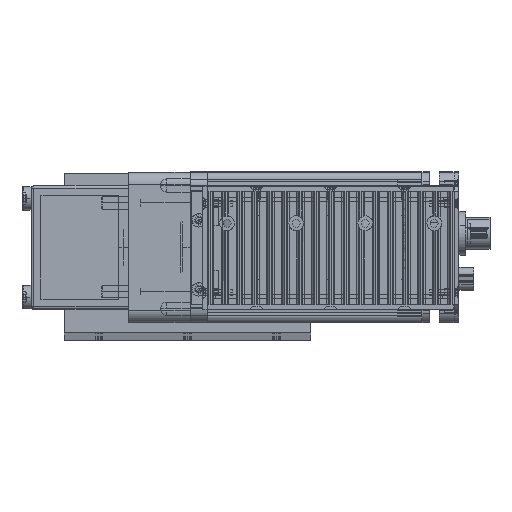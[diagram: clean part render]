
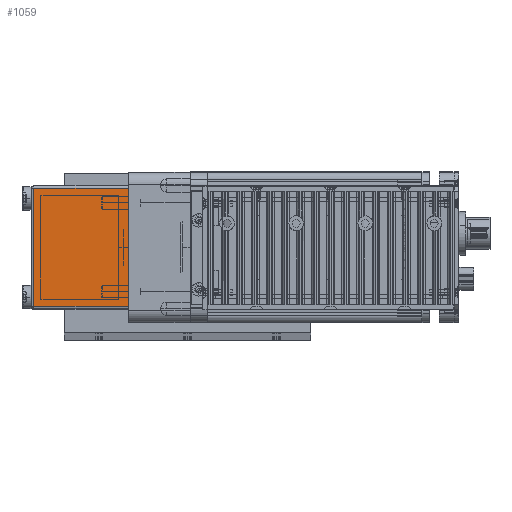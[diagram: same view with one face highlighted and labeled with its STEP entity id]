
A CAD part, top view. The second image highlights one B-rep face of the part: STEP entity #1059.
In plain terms, the highlighted planar face has unit normal (0, 0, 1) as drawn and (1, 0, 0) by its records, which use the part's own axes.
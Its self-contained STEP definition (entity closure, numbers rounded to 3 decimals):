
#931 = ORIENTED_EDGE ( 'NONE', *, *, #27592, .F. ) ;
#1059 = ADVANCED_FACE ( 'NONE', ( #40137 ), #40076, .F. ) ;
#1065 = EDGE_CURVE ( 'NONE', #27595, #27543, #40169, .T. ) ;
#1069 = EDGE_CURVE ( 'NONE', #27512, #27522, #40162, .T. ) ;
#3595 = CARTESIAN_POINT ( 'NONE',  ( 62., -24., 0. ) ) ;
#3607 = CARTESIAN_POINT ( 'NONE',  ( 62., 24., 38.5 ) ) ;
#3622 = CARTESIAN_POINT ( 'NONE',  ( 62., 24., 0. ) ) ;
#3691 = DIRECTION ( 'NONE',  ( 0., 0., -1. ) ) ;
#3692 = VECTOR ( 'NONE', #3691, 1000. ) ;
#3693 = CARTESIAN_POINT ( 'NONE',  ( 62., 24., 39.5 ) ) ;
#3717 = LINE ( 'NONE', #3693, #3692 ) ;
#3740 = CARTESIAN_POINT ( 'NONE',  ( 62., -24., 38.5 ) ) ;
#3744 = DIRECTION ( 'NONE',  ( 0., 0., 1. ) ) ;
#3745 = VECTOR ( 'NONE', #3744, 1000. ) ;
#3746 = CARTESIAN_POINT ( 'NONE',  ( 62., -24., 39.5 ) ) ;
#3747 = LINE ( 'NONE', #3746, #3745 ) ;
#4208 = EDGE_LOOP ( 'NONE', ( #931, #5370, #6123, #5976 ) ) ;
#5370 = ORIENTED_EDGE ( 'NONE', *, *, #1069, .T. ) ;
#5976 = ORIENTED_EDGE ( 'NONE', *, *, #1065, .F. ) ;
#6123 = ORIENTED_EDGE ( 'NONE', *, *, #27585, .F. ) ;
#27512 = VERTEX_POINT ( 'NONE', #3595 ) ;
#27522 = VERTEX_POINT ( 'NONE', #3622 ) ;
#27543 = VERTEX_POINT ( 'NONE', #3607 ) ;
#27585 = EDGE_CURVE ( 'NONE', #27543, #27522, #3717, .T. ) ;
#27592 = EDGE_CURVE ( 'NONE', #27512, #27595, #3747, .T. ) ;
#27595 = VERTEX_POINT ( 'NONE', #3740 ) ;
#40076 = PLANE ( 'NONE',  #40132 ) ;
#40122 = DIRECTION ( 'NONE',  ( 0., -1., 0. ) ) ;
#40123 = DIRECTION ( 'NONE',  ( -1., 0., 0. ) ) ;
#40124 = CARTESIAN_POINT ( 'NONE',  ( 62., 25., 39.5 ) ) ;
#40132 = AXIS2_PLACEMENT_3D ( 'NONE', #40124, #40123, #40122 ) ;
#40137 = FACE_OUTER_BOUND ( 'NONE', #4208, .T. ) ;
#40154 = DIRECTION ( 'NONE',  ( 0., 1., 0. ) ) ;
#40155 = VECTOR ( 'NONE', #40154, 1000. ) ;
#40156 = CARTESIAN_POINT ( 'NONE',  ( 62., -25., 0. ) ) ;
#40162 = LINE ( 'NONE', #40156, #40155 ) ;
#40166 = DIRECTION ( 'NONE',  ( 0., 1., 0. ) ) ;
#40167 = VECTOR ( 'NONE', #40166, 1000. ) ;
#40168 = CARTESIAN_POINT ( 'NONE',  ( 62., -25., 38.5 ) ) ;
#40169 = LINE ( 'NONE', #40168, #40167 ) ;
